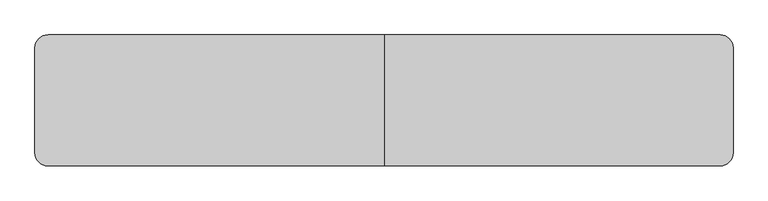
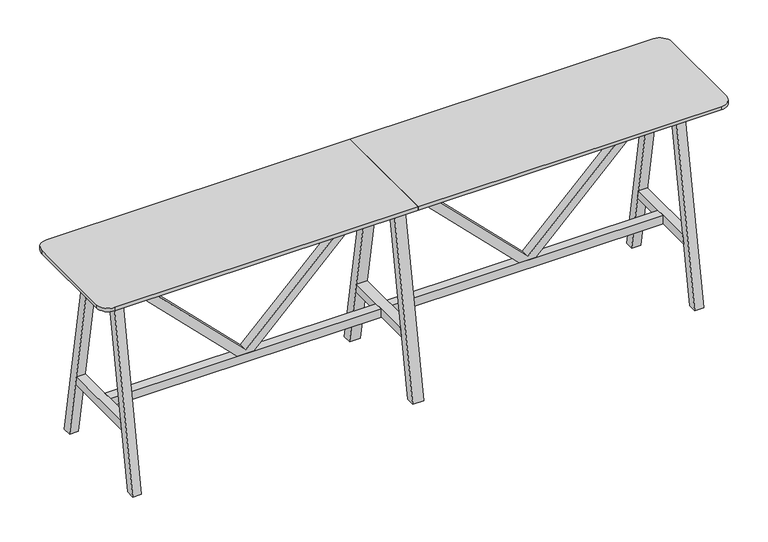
"""IFC4 building model written with IfcOpenShell, lengths in millimetres: furniture geometry, BDG_BossDesign_Tbls_AgentTables6Legs : AGE-HT-6L-3200-600-3D."""

from ifc_helpers import new_model, si_unit, point, frame, frame_2d, origin, place, context, project, spatial, polyline, circle_curve, trimmed, segment, composite_curve, outline, extrude, source, transform, mapped, element, save


def furniture_6ec0f736(model_context):
    return source(origin(), model_context, "Body", "SweptSolid", [
        extrude(outline(polyline([(345.0, 674.0823957), (345.0, 758.4176043), (992.0, 1405.0), (1032.0, 1405.0), (1032.0, 1385.0), (365.0, 716.25), (1032.0, 47.5), (1032.0, 27.5), (992.0, 27.5), (345.0, 674.0823957)])), frame((0.0, -22.5000305, 0.0), z_axis=(0.0, 1.0, 0.0), x_axis=(0.0, 0.0, 1.0)), (0.0, 0.0, 1.0), 45.000061),
        extrude(outline(polyline([(345.0, -674.0823957), (992.0, -27.5), (1032.0, -27.5), (1032.0, -47.5), (365.0, -716.25), (1032.0, -1385.0), (1032.0, -1405.0), (992.0, -1405.0), (345.0, -758.4176043), (345.0, -674.0823957)])), frame((0.0, -22.5000305, 0.0), z_axis=(0.0, 1.0, 0.0), x_axis=(0.0, 0.0, 1.0)), (0.0, 0.0, 1.0), 45.000061),
        extrude(outline(polyline([(300.0, 0.0), (254.9999949, 0.0), (85.5, 970.0), (130.5000051, 970.0), (300.0, 0.0)])), frame((-27.5, 0.0, 0.0), z_axis=(1.0, 0.0, 0.0), x_axis=(0.0, 1.0, 0.0)), (0.0, 0.0, 1.0), 55.0),
        extrude(outline(polyline([(-300.0, 0.0), (-130.5000051, 970.0), (-85.5, 970.0), (-254.9999949, 0.0), (-300.0, 0.0)])), frame((-27.5, 0.0, 0.0), z_axis=(1.0, 0.0, 0.0), x_axis=(0.0, 1.0, 0.0)), (0.0, 0.0, 1.0), 55.0),
        extrude(outline(polyline([(202.5773161, 300.0), (-202.5773161, 300.0), (-194.7139143, 345.0), (194.7139143, 345.0), (202.5773161, 300.0)])), frame((-27.5, 0.0, 0.0), z_axis=(1.0, 0.0, 0.0), x_axis=(0.0, 1.0, 0.0)), (0.0, 0.0, 1.0), 55.0),
        extrude(outline(composite_curve([segment(polyline([(0.0, 300.0), (0.0, -300.0), (-1540.0, -300.0)]), True, "CONTINUOUS"), segment(trimmed(circle_curve(frame_2d((-1540.0, -240.0)), 60.0), [point((-1540.0, -300.0))], [point((-1600.0, -240.0))], False, "CARTESIAN"), True, "CONTINUOUS"), segment(polyline([(-1600.0, -240.0), (-1600.0, 240.0)]), True, "CONTINUOUS"), segment(trimmed(circle_curve(frame_2d((-1540.0, 240.0)), 60.0), [point((-1600.0, 240.0))], [point((-1540.0, 300.0))], False, "CARTESIAN"), True, "CONTINUOUS"), segment(polyline([(-1540.0, 300.0), (0.0, 300.0)]), True, "CONTINUOUS")], self_intersect=False)), frame((0.0, 0.0, 1032.0), z_axis=(0.0, 0.0, 1.0), x_axis=(1.0, 0.0, 0.0)), (0.0, 0.0, 1.0), 18.0),
        extrude(outline(polyline([(-194.7139143, 345.0), (194.7139143, 345.0), (202.5773161, 300.0), (-202.5773161, 300.0), (-194.7139143, 345.0)])), frame((1405.0, 0.0, 0.0), z_axis=(1.0, 0.0, 0.0), x_axis=(0.0, 1.0, 0.0)), (0.0, 0.0, 1.0), 45.0),
        extrude(outline(polyline([(300.0, 0.0), (254.9999949, 0.0), (85.5, 970.0), (130.5000051, 970.0), (300.0, 0.0)])), frame((-1450.0, 0.0, 0.0), z_axis=(1.0, 0.0, 0.0), x_axis=(0.0, 1.0, 0.0)), (0.0, 0.0, 1.0), 45.0),
        extrude(outline(polyline([(-300.0, 0.0), (-130.5000051, 970.0), (-85.5, 970.0), (-254.9999949, 0.0), (-300.0, 0.0)])), frame((-1450.0, 0.0, 0.0), z_axis=(1.0, 0.0, 0.0), x_axis=(0.0, 1.0, 0.0)), (0.0, 0.0, 1.0), 45.0),
        extrude(outline(polyline([(-194.7139143, 345.0), (194.7139143, 345.0), (202.5773161, 300.0), (-202.5773161, 300.0), (-194.7139143, 345.0)])), frame((-1450.0, 0.0, 0.0), z_axis=(1.0, 0.0, 0.0), x_axis=(0.0, 1.0, 0.0)), (0.0, 0.0, 1.0), 45.0),
        extrude(outline(polyline([(-126.6006165, 944.973938), (-104.2770691, 1032.0), (-79.5, 1032.0), (-101.8235474, 944.973938), (-126.6006165, 944.973938)])), frame((-1405.0, 0.0, 0.0), z_axis=(1.0, 0.0, 0.0), x_axis=(0.0, 1.0, 0.0)), (0.0, 0.0, 1.0), 2810.0),
        extrude(outline(polyline([(126.6006165, 944.973938), (101.8235474, 944.973938), (79.5, 1032.0), (104.2770691, 1032.0), (126.6006165, 944.973938)])), frame((-1405.0, 0.0, 0.0), z_axis=(1.0, 0.0, 0.0), x_axis=(0.0, 1.0, 0.0)), (0.0, 0.0, 1.0), 2810.0),
        extrude(outline(polyline([(299.7999878, 0.0), (254.7999827, 0.0), (85.5, 970.0), (130.5000051, 970.0), (299.7999878, 0.0)])), frame((1405.0, 0.0, 0.0), z_axis=(1.0, 0.0, 0.0), x_axis=(0.0, 1.0, 0.0)), (0.0, 0.0, 1.0), 45.0),
        extrude(outline(polyline([(-299.7999878, 0.0), (-130.5000051, 970.0), (-85.5, 970.0), (-254.7999827, 0.0), (-299.7999878, 0.0)])), frame((1405.0, 0.0, 0.0), z_axis=(1.0, 0.0, 0.0), x_axis=(0.0, 1.0, 0.0)), (0.0, 0.0, 1.0), 45.0),
        extrude(outline(polyline([(-27.5, 22.5000305), (-27.5, -22.5000305), (-1405.0, -22.5000305), (-1405.0, 22.5000305), (-27.5, 22.5000305)])), frame((0.0, 0.0, 300.0), z_axis=(0.0, 0.0, 1.0), x_axis=(1.0, 0.0, 0.0)), (0.0, 0.0, 1.0), 45.0),
        extrude(outline(polyline([(27.5, -22.5000305), (27.5, 22.5000305), (1405.0, 22.5000305), (1405.0, -22.5000305), (27.5, -22.5000305)])), frame((0.0, 0.0, 300.0), z_axis=(0.0, 0.0, 1.0), x_axis=(1.0, 0.0, 0.0)), (0.0, 0.0, 1.0), 45.0),
        extrude(outline(composite_curve([segment(trimmed(circle_curve(frame_2d((1540.0, 240.0)), 60.0), [point((1540.0, 300.0))], [point((1600.0, 240.0))], False, "CARTESIAN"), True, "CONTINUOUS"), segment(polyline([(1600.0, 240.0), (1600.0, -240.0)]), True, "CONTINUOUS"), segment(trimmed(circle_curve(frame_2d((1540.0, -240.0)), 60.0), [point((1600.0, -240.0))], [point((1540.0, -300.0))], False, "CARTESIAN"), True, "CONTINUOUS"), segment(polyline([(1540.0, -300.0), (0.0, -300.0), (0.0, 300.0), (1540.0, 300.0)]), True, "CONTINUOUS")], self_intersect=False)), frame((0.0, 0.0, 1032.0), z_axis=(0.0, 0.0, 1.0), x_axis=(1.0, 0.0, 0.0)), (0.0, 0.0, 1.0), 18.0),
    ])


if __name__ == "__main__":
    model = new_model("IFC4")
    model_context = context("Model", 3, world=origin())
    ifc_project = project(units=[si_unit("LENGTHUNIT", "METRE", prefix="MILLI")], contexts=[model_context])
    site = spatial("IfcSite", under=ifc_project)
    building = spatial("IfcBuilding", under=site)
    placement = place(None, origin())
    furniture_shape = furniture_6ec0f736(model_context)
    element("IfcFurniture", 1, ObjectType="BDG_BossDesign_Tbls_AgentTables6Legs : AGE-HT-6L-3200-600-3D", at=placement, inside=building, context=model_context, shape_type="MappedRepresentation", body=[
        mapped(furniture_shape, transform((0.0, 0.0, 0.0), x_axis=(1.0, 0.0, 0.0), y_axis=(0.0, 1.0, 0.0), z_axis=(0.0, 0.0, 1.0))),
    ])
    save(model, "model.ifc")
